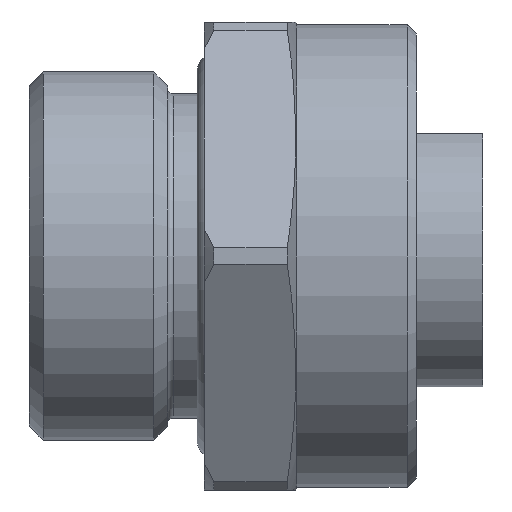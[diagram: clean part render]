
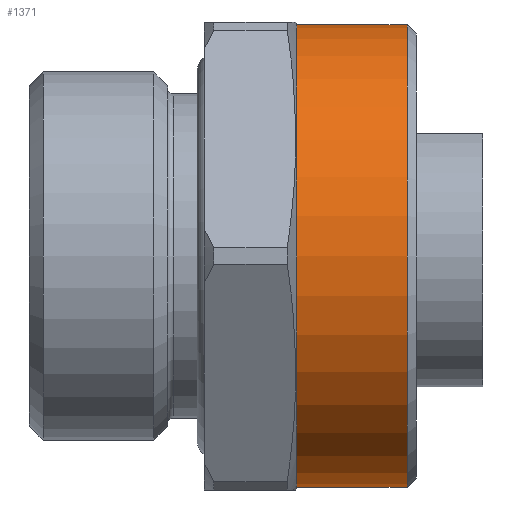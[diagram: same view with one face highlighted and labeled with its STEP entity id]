
A CAD part, left-side view. The second image highlights one B-rep face of the part: STEP entity #1371.
In plain terms, the highlighted cylindrical face has radius 12.55 mm (diameter 25.1 mm), a full revolution.
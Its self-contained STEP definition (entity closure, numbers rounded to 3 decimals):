
#127=FACE_BOUND('',#477,.T.);
#301=CYLINDRICAL_SURFACE('',#1539,12.55);
#371=FACE_OUTER_BOUND('',#476,.T.);
#476=EDGE_LOOP('',(#1203));
#477=EDGE_LOOP('',(#1204));
#597=CIRCLE('',#1537,12.55);
#599=CIRCLE('',#1540,12.55);
#724=VERTEX_POINT('',#2367);
#725=VERTEX_POINT('',#2371);
#895=EDGE_CURVE('',#724,#724,#597,.T.);
#897=EDGE_CURVE('',#725,#725,#599,.T.);
#1203=ORIENTED_EDGE('',*,*,#897,.F.);
#1204=ORIENTED_EDGE('',*,*,#895,.T.);
#1371=ADVANCED_FACE('',(#371,#127),#301,.T.);
#1537=AXIS2_PLACEMENT_3D('',#2368,#1911,#1912);
#1539=AXIS2_PLACEMENT_3D('',#2370,#1915,#1916);
#1540=AXIS2_PLACEMENT_3D('',#2372,#1917,#1918);
#1911=DIRECTION('center_axis',(0.,-1.,0.));
#1912=DIRECTION('ref_axis',(1.,0.,0.));
#1915=DIRECTION('center_axis',(0.,-1.,0.));
#1916=DIRECTION('ref_axis',(1.,0.,0.));
#1917=DIRECTION('center_axis',(0.,-1.,0.));
#1918=DIRECTION('ref_axis',(1.,0.,0.));
#2367=CARTESIAN_POINT('',(12.55,6.5,0.));
#2368=CARTESIAN_POINT('Origin',(0.,6.5,0.));
#2370=CARTESIAN_POINT('Origin',(0.,3.5,0.));
#2371=CARTESIAN_POINT('',(12.55,0.5,0.));
#2372=CARTESIAN_POINT('Origin',(0.,0.5,0.));
